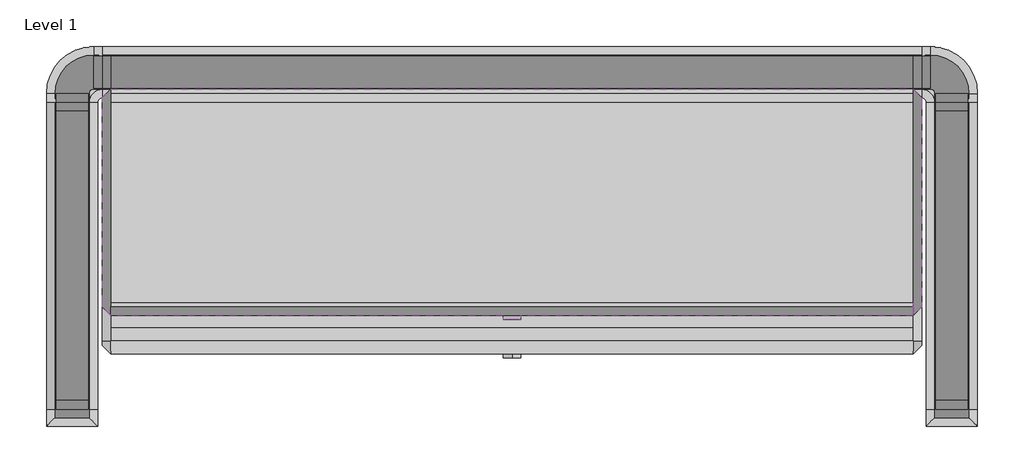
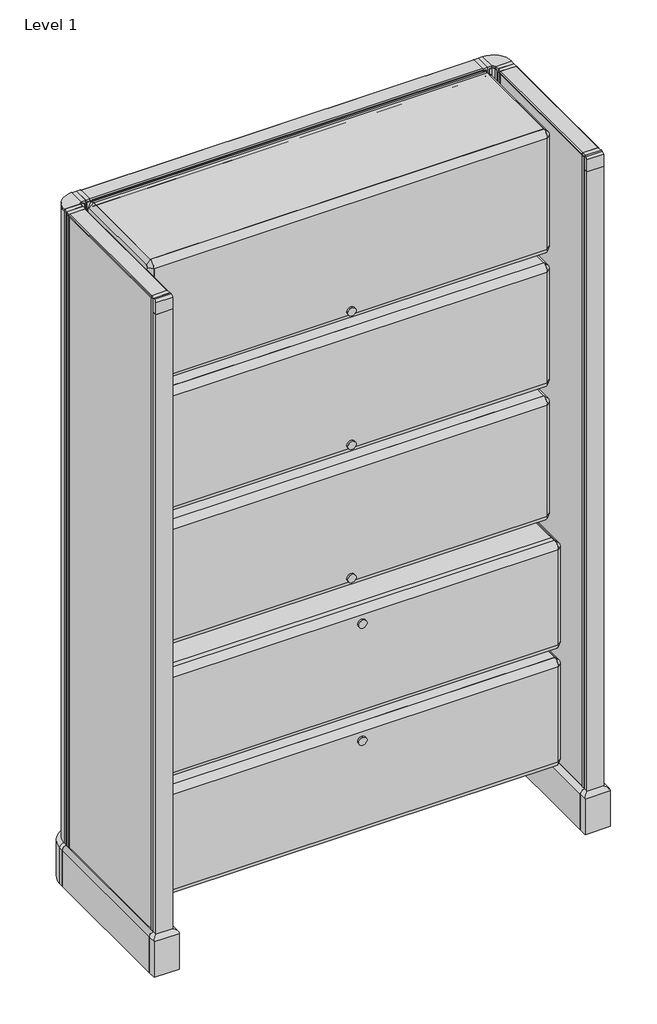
# One storey: 12 furniture elements.
"""IFC4 building model written with IfcOpenShell, lengths in millimetres."""

from ifc_helpers import new_model, si_unit, origin, place, context, project, spatial, transform, mapped, element, save
from components import furniture_da44b8ef, furniture_9343bcb8, furniture_87147b9d, furniture_f1771141, furniture_fd0ec5e4, furniture_c7a52ff1, furniture_7ffcbc65, furniture_baa44a24, furniture_d6d106ba

model = new_model("IFC4")

# Units and contexts
model_context = context("Model", 3, world=origin())
ifc_project = project(units=[si_unit("LENGTHUNIT", "METRE", prefix="MILLI")], contexts=[model_context])

# Site, building, storey
site = spatial("IfcSite", under=ifc_project)
building = spatial("IfcBuilding", under=site)
storey = spatial("IfcBuildingStorey", under=building, Name="Level 1", Elevation=0.0)

# Furniture
placement = place(None, origin())
furniture_shape = furniture_da44b8ef(model_context)
element("IfcFurniture", 1, ObjectType="HermanMiller_ActionOffice_A3352_B-StyleFlipperDoorUnit : 15 1/2\"H x 13\"D x 48\"W", at=placement, inside=storey, context=model_context, shape_type="MappedRepresentation", body=[
    mapped(furniture_shape, transform((609.6, -231.775, 0.0), x_axis=(1.0, 0.0, 0.0), y_axis=(0.0, 1.0, 0.0), z_axis=(0.0, 0.0, 1.0))),
])
furniture_2_shape = furniture_9343bcb8(model_context)
element("IfcFurniture", 2, ObjectType="HermanMiller_ActionOffice_A3352_B-StyleFlipperDoorUnit : 15 1/2\"H x 13\"D x 48\"W", at=placement, inside=storey, context=model_context, shape_type="MappedRepresentation", body=[
    mapped(furniture_2_shape, transform((609.6, -231.775, 0.0), x_axis=(1.0, 0.0, 0.0), y_axis=(0.0, 1.0, 0.0), z_axis=(0.0, 0.0, 1.0))),
])
furniture_3_shape = furniture_87147b9d(model_context)
element("IfcFurniture", 3, ObjectType="HermanMiller_ActionOffice_A3352_B-StyleFlipperDoorUnit : 15 1/2\"H x 13\"D x 48\"W", at=placement, inside=storey, context=model_context, shape_type="MappedRepresentation", body=[
    mapped(furniture_3_shape, transform((609.6, -231.775, 0.0), x_axis=(1.0, 0.0, 0.0), y_axis=(0.0, 1.0, 0.0), z_axis=(0.0, 0.0, 1.0))),
])
furniture_4_shape = furniture_f1771141(model_context)
element("IfcFurniture", 4, ObjectType="HermanMiller_ActionOffice_A3121_B-StyleSuspendedLateralFile : 16\"D x 48\"W", at=placement, inside=storey, context=model_context, shape_type="MappedRepresentation", body=[
    mapped(furniture_4_shape, transform((609.6, -260.35, 0.0), x_axis=(1.0, 0.0, 0.0), y_axis=(0.0, 1.0, 0.0), z_axis=(0.0, 0.0, 1.0))),
])
furniture_5_shape = furniture_fd0ec5e4(model_context)
element("IfcFurniture", 5, ObjectType="HermanMiller_ActionOffice_A3121_B-StyleSuspendedLateralFile : 16\"D x 48\"W", at=placement, inside=storey, context=model_context, shape_type="MappedRepresentation", body=[
    mapped(furniture_5_shape, transform((609.6, -260.35, 0.0), x_axis=(1.0, 0.0, 0.0), y_axis=(0.0, 1.0, 0.0), z_axis=(0.0, 0.0, 1.0))),
])
furniture_6_shape = furniture_c7a52ff1(model_context)
element("IfcFurniture", 6, ObjectType="HermanMiller_ActionOffice_A1110_Hard-SurfacedPanelStandardBase : 85\"H x 48\"W-N", at=placement, inside=storey, context=model_context, shape_type="MappedRepresentation", body=[
    mapped(furniture_6_shape, transform((609.6, -25.4, 0.0), x_axis=(1.0, 0.0, 0.0), y_axis=(0.0, 1.0, 0.0), z_axis=(0.0, 0.0, 1.0))),
])
furniture_7_shape = furniture_7ffcbc65(model_context)
element("IfcFurniture", 7, ObjectType="HermanMiller_ActionOffice_A1110_Hard-SurfacedPanelStandardBase : 85\"H x 18\"W-N", at=placement, inside=storey, context=model_context, shape_type="MappedRepresentation", body=[
    mapped(furniture_7_shape, transform((1263.6493657, -298.4493634, 0.0), x_axis=(0.0, -1.0, 0.0), y_axis=(1.0, 0.0, 0.0), z_axis=(0.0, 0.0, 1.0))),
])
element("IfcFurniture", 8, ObjectType="HermanMiller_ActionOffice_A1110_Hard-SurfacedPanelStandardBase : 85\"H x 18\"W-N", at=placement, inside=storey, context=model_context, shape_type="MappedRepresentation", body=[
    mapped(furniture_7_shape, transform((-44.45, -298.45, 0.0), x_axis=(0.0, 1.0, 0.0), y_axis=(-1.0, 0.0, 0.0), z_axis=(0.0, 0.0, 1.0))),
])
furniture_8_shape = furniture_baa44a24(model_context)
element("IfcFurniture", 9, ObjectType="HermanMiller_ActionOffice_A1271_FinishedEndStandardBase : 85\"H", at=placement, inside=storey, context=model_context, shape_type="MappedRepresentation", body=[
    mapped(furniture_8_shape, transform((3712.3881533, 1457.8066878, 0.0), x_axis=(0.0, -1.0, 0.0), y_axis=(1.0, 0.0, 0.0), z_axis=(0.0, 0.0, 1.0))),
])
element("IfcFurniture", 10, ObjectType="HermanMiller_ActionOffice_A1271_FinishedEndStandardBase : 85\"H", at=placement, inside=storey, context=model_context, shape_type="MappedRepresentation", body=[
    mapped(furniture_8_shape, transform((2404.2887877, 1457.8060512, 0.0), x_axis=(0.0, -1.0, 0.0), y_axis=(1.0, 0.0, 0.0), z_axis=(0.0, 0.0, 1.0))),
])
furniture_9_shape = furniture_d6d106ba(model_context)
element("IfcFurniture", 11, ObjectType="HermanMiller_ActionOffice_A1220_90ConnectorStandardBase : 85\"H 2-Way-Hard", at=placement, inside=storey, context=model_context, shape_type="MappedRepresentation", body=[
    mapped(furniture_9_shape, transform((1257.3, -39.9139414, 0.0), x_axis=(1.0, 0.0, 0.0), y_axis=(0.0, 1.0, 0.0), z_axis=(0.0, 0.0, 1.0))),
])
element("IfcFurniture", 12, ObjectType="HermanMiller_ActionOffice_A1220_90ConnectorStandardBase : 85\"H 2-Way-Hard", at=placement, inside=storey, context=model_context, shape_type="MappedRepresentation", body=[
    mapped(furniture_9_shape, transform((-29.9360586, -31.75, 0.0), x_axis=(0.0, 1.0, 0.0), y_axis=(-1.0, 0.0, 0.0), z_axis=(0.0, 0.0, 1.0))),
])

save(model, "model.ifc")
